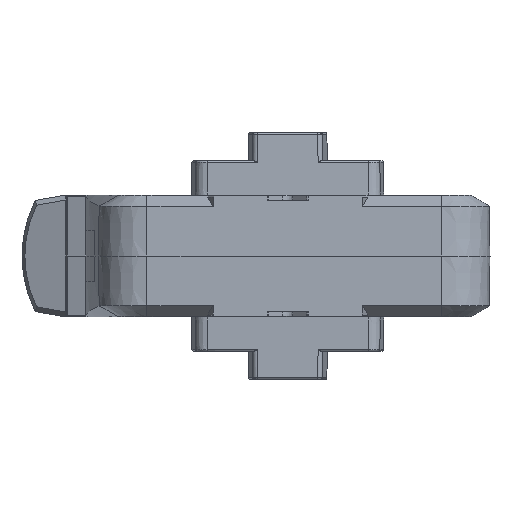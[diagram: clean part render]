
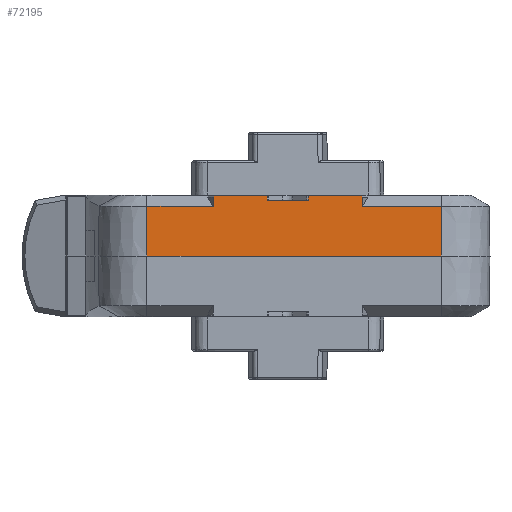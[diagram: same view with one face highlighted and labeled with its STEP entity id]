
A CAD part, left-side view. The second image highlights one B-rep face of the part: STEP entity #72195.
In plain terms, the highlighted planar face has unit normal (-1, 0, 0.009).
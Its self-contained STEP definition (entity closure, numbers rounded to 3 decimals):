
#3826=PLANE('',#76923);
#7810=FACE_OUTER_BOUND('',#11892,.T.);
#11892=EDGE_LOOP('',(#57020,#57021,#57022,#57023,#57024,#57025,#57026,#57027,
#57028,#57029,#57030,#57031,#57032,#57033));
#17866=LINE('',#124184,#25200);
#17869=LINE('',#124197,#25203);
#18048=LINE('',#124597,#25382);
#18049=LINE('',#124599,#25383);
#18050=LINE('',#124601,#25384);
#18051=LINE('',#124602,#25385);
#18052=LINE('',#124603,#25386);
#18053=LINE('',#124605,#25387);
#18054=LINE('',#124607,#25388);
#18055=LINE('',#124609,#25389);
#18056=LINE('',#124611,#25390);
#18057=LINE('',#124613,#25391);
#18058=LINE('',#124615,#25392);
#18059=LINE('',#124616,#25393);
#25200=VECTOR('',#88924,1000.);
#25203=VECTOR('',#88939,1000.);
#25382=VECTOR('',#89284,1000.);
#25383=VECTOR('',#89285,1000.);
#25384=VECTOR('',#89286,1000.);
#25385=VECTOR('',#89287,1000.);
#25386=VECTOR('',#89288,1000.);
#25387=VECTOR('',#89289,1000.);
#25388=VECTOR('',#89290,1000.);
#25389=VECTOR('',#89291,1000.);
#25390=VECTOR('',#89292,1000.);
#25391=VECTOR('',#89293,1000.);
#25392=VECTOR('',#89294,1000.);
#25393=VECTOR('',#89295,1000.);
#33251=VERTEX_POINT('',#124180);
#33252=VERTEX_POINT('',#124182);
#33255=VERTEX_POINT('',#124192);
#33256=VERTEX_POINT('',#124196);
#33393=VERTEX_POINT('',#124595);
#33394=VERTEX_POINT('',#124596);
#33395=VERTEX_POINT('',#124598);
#33396=VERTEX_POINT('',#124600);
#33397=VERTEX_POINT('',#124604);
#33398=VERTEX_POINT('',#124606);
#33399=VERTEX_POINT('',#124608);
#33400=VERTEX_POINT('',#124610);
#33401=VERTEX_POINT('',#124612);
#33402=VERTEX_POINT('',#124614);
#41629=EDGE_CURVE('',#33251,#33252,#17866,.T.);
#41635=EDGE_CURVE('',#33256,#33255,#17869,.T.);
#41839=EDGE_CURVE('',#33393,#33394,#18048,.T.);
#41840=EDGE_CURVE('',#33394,#33395,#18049,.T.);
#41841=EDGE_CURVE('',#33396,#33395,#18050,.T.);
#41842=EDGE_CURVE('',#33251,#33396,#18051,.T.);
#41843=EDGE_CURVE('',#33252,#33256,#18052,.T.);
#41844=EDGE_CURVE('',#33397,#33255,#18053,.T.);
#41845=EDGE_CURVE('',#33398,#33397,#18054,.T.);
#41846=EDGE_CURVE('',#33398,#33399,#18055,.T.);
#41847=EDGE_CURVE('',#33399,#33400,#18056,.T.);
#41848=EDGE_CURVE('',#33400,#33401,#18057,.T.);
#41849=EDGE_CURVE('',#33401,#33402,#18058,.T.);
#41850=EDGE_CURVE('',#33402,#33393,#18059,.T.);
#57020=ORIENTED_EDGE('',*,*,#41839,.T.);
#57021=ORIENTED_EDGE('',*,*,#41840,.T.);
#57022=ORIENTED_EDGE('',*,*,#41841,.F.);
#57023=ORIENTED_EDGE('',*,*,#41842,.F.);
#57024=ORIENTED_EDGE('',*,*,#41629,.T.);
#57025=ORIENTED_EDGE('',*,*,#41843,.T.);
#57026=ORIENTED_EDGE('',*,*,#41635,.T.);
#57027=ORIENTED_EDGE('',*,*,#41844,.F.);
#57028=ORIENTED_EDGE('',*,*,#41845,.F.);
#57029=ORIENTED_EDGE('',*,*,#41846,.T.);
#57030=ORIENTED_EDGE('',*,*,#41847,.T.);
#57031=ORIENTED_EDGE('',*,*,#41848,.T.);
#57032=ORIENTED_EDGE('',*,*,#41849,.T.);
#57033=ORIENTED_EDGE('',*,*,#41850,.T.);
#72195=ADVANCED_FACE('',(#7810),#3826,.T.);
#76923=AXIS2_PLACEMENT_3D('',#124594,#89282,#89283);
#88924=DIRECTION('',(-0.009,0.,-1.));
#88939=DIRECTION('',(0.009,0.,1.));
#89282=DIRECTION('center_axis',(-1.,0.,0.009));
#89283=DIRECTION('ref_axis',(0.009,0.,1.));
#89284=DIRECTION('',(0.,1.,0.));
#89285=DIRECTION('',(-0.006,0.734,-0.679));
#89286=DIRECTION('',(0.009,-0.006,1.));
#89287=DIRECTION('',(0.,-1.,0.));
#89288=DIRECTION('',(0.,-1.,0.));
#89289=DIRECTION('',(0.,-1.,0.));
#89290=DIRECTION('',(-0.009,-0.006,-1.));
#89291=DIRECTION('',(0.006,0.728,0.686));
#89292=DIRECTION('',(0.,1.,0.));
#89293=DIRECTION('',(-0.009,0.,-1.));
#89294=DIRECTION('',(0.,1.,0.));
#89295=DIRECTION('',(0.009,0.,1.));
#124180=CARTESIAN_POINT('',(-132.821,57.731,7.984));
#124182=CARTESIAN_POINT('',(-133.,57.731,-12.5));
#124184=CARTESIAN_POINT('',(-133.,57.731,-12.5));
#124192=CARTESIAN_POINT('',(-132.821,-63.,7.984));
#124196=CARTESIAN_POINT('',(-133.,-63.,-12.5));
#124197=CARTESIAN_POINT('',(-133.,-63.,-12.5));
#124594=CARTESIAN_POINT('Origin',(-133.,83.,-12.5));
#124595=CARTESIAN_POINT('',(-132.784,8.457,12.3));
#124596=CARTESIAN_POINT('',(-132.784,29.917,12.3));
#124597=CARTESIAN_POINT('',(-132.784,30.559,12.3));
#124598=CARTESIAN_POINT('',(-132.789,30.564,11.7));
#124599=CARTESIAN_POINT('',(-132.725,22.725,18.96));
#124600=CARTESIAN_POINT('',(-132.821,30.587,7.984));
#124601=CARTESIAN_POINT('',(-132.801,30.573,10.308));
#124602=CARTESIAN_POINT('',(-132.821,83.,7.984));
#124603=CARTESIAN_POINT('',(-133.,83.,-12.5));
#124604=CARTESIAN_POINT('',(-132.821,-30.587,7.984));
#124605=CARTESIAN_POINT('',(-132.821,83.,7.984));
#124606=CARTESIAN_POINT('',(-132.789,-30.564,11.693));
#124607=CARTESIAN_POINT('',(-132.801,-30.573,10.308));
#124608=CARTESIAN_POINT('',(-132.784,-29.92,12.3));
#124609=CARTESIAN_POINT('',(-132.779,-29.344,12.843));
#124610=CARTESIAN_POINT('',(-132.784,-8.457,12.3));
#124611=CARTESIAN_POINT('',(-132.784,-8.457,12.3));
#124612=CARTESIAN_POINT('',(-132.801,-8.457,10.35));
#124613=CARTESIAN_POINT('',(-132.791,-8.457,11.425));
#124614=CARTESIAN_POINT('',(-132.801,8.457,10.35));
#124615=CARTESIAN_POINT('',(-132.801,83.,10.35));
#124616=CARTESIAN_POINT('',(-132.791,8.457,11.425));
